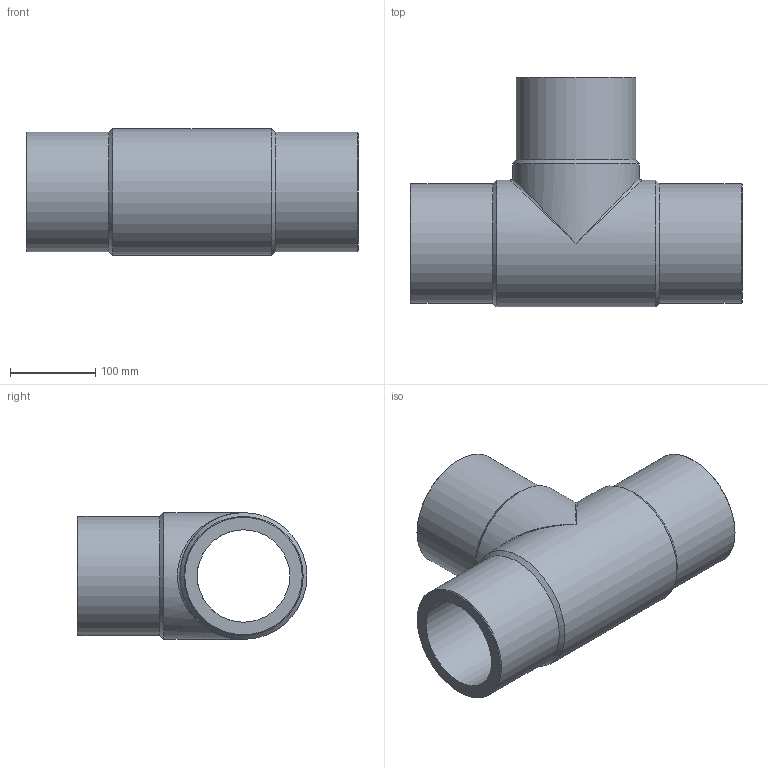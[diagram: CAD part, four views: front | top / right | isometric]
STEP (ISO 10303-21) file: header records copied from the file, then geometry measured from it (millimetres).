
FILE_DESCRIPTION(/* description */ ('Unknown'),/* implementation_level */ '2;1');
FILE_NAME(/* name */ 'TP140G',/* time_stamp */ '2021-08-13T10:05:06+02:00',/* author */ ('Unknown'),/* organization */ ('Unknown'),/* preprocessor_version */ 'ST-DEVELOPER v16.7',/* originating_system */ 'Solid Edge',/* authorisation */ 'Unknown');
FILE_SCHEMA (('AUTOMOTIVE_DESIGN {1 0 10303 214 3 1 1}'));
Length unit declared in the file: millimetre
Products named in the file (1): TP140G
Bounding box: 390 x 270 x 149 mm (x, y, z)
Volume: 3499743 mm3; surface area: 417131.8 mm2
Topology: 1 solids, 1 shells, 18 faces, 44 edges, 23 vertices
Faces by surface type: cylinder 7, cone 6, plane 3, bspline 2
Full cylindrical faces by diameter (mm): 108.6 x2, 140 x3, 149 x2
Entity records: 516 total; most frequent: CARTESIAN_POINT 159, DIRECTION 76, ORIENTED_EDGE 42, AXIS2_PLACEMENT_3D 38, EDGE_LOOP 36, FACE_BOUND 36, EDGE_CURVE 21, VERTEX_POINT 19
